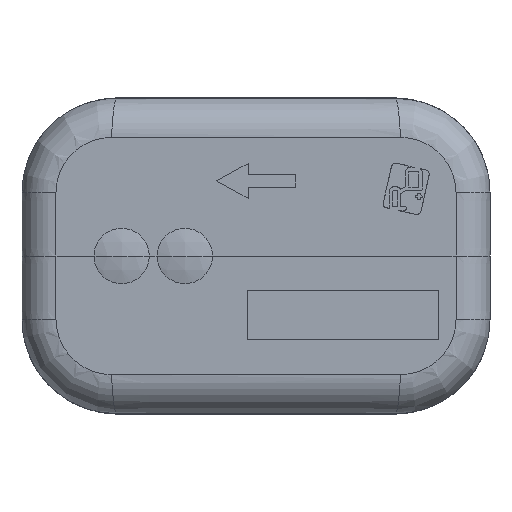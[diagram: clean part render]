
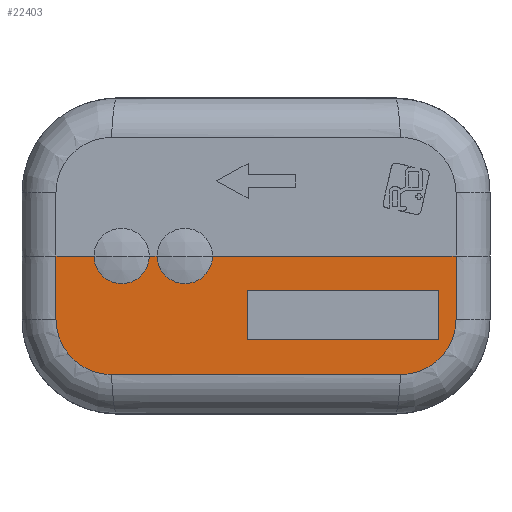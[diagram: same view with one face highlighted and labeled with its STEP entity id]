
A CAD part, front view. The second image highlights one B-rep face of the part: STEP entity #22403.
In plain terms, the highlighted planar face has unit normal (0, -1, 0).
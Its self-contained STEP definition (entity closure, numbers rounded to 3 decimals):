
#20815 = VERTEX_POINT('',#20816);
#20816 = CARTESIAN_POINT('',(-25.3,-25.9,-8.));
#20837 = EDGE_CURVE('',#20838,#20815,#20840,.T.);
#20838 = VERTEX_POINT('',#20839);
#20839 = CARTESIAN_POINT('',(-25.3,-25.9,0.));
#20840 = B_SPLINE_CURVE_WITH_KNOTS('',8,(#20841,#20842,#20843,#20844,
    #20845,#20846,#20847,#20848,#20849),.UNSPECIFIED.,.F.,.F.,(9,9),(6.,
    7.),.PIECEWISE_BEZIER_KNOTS.);
#20841 = CARTESIAN_POINT('',(-25.3,-25.9,8.));
#20842 = CARTESIAN_POINT('',(-25.3,-25.9,6.));
#20843 = CARTESIAN_POINT('',(-25.3,-25.9,4.));
#20844 = CARTESIAN_POINT('',(-25.3,-25.9,2.));
#20845 = CARTESIAN_POINT('',(-25.3,-25.9,0.));
#20846 = CARTESIAN_POINT('',(-25.3,-25.9,-2.));
#20847 = CARTESIAN_POINT('',(-25.3,-25.9,-4.));
#20848 = CARTESIAN_POINT('',(-25.3,-25.9,-6.));
#20849 = CARTESIAN_POINT('',(-25.3,-25.9,-8.));
#22153 = EDGE_CURVE('',#22154,#20838,#22156,.T.);
#22154 = VERTEX_POINT('',#22155);
#22155 = CARTESIAN_POINT('',(-20.5,-25.9,0.));
#22156 = LINE('',#22157,#22158);
#22157 = CARTESIAN_POINT('',(-59.15,-25.9,0.));
#22158 = VECTOR('',#22159,1.);
#22159 = DIRECTION('',(-1.,0.,0.));
#22162 = VERTEX_POINT('',#22163);
#22163 = CARTESIAN_POINT('',(-13.5,-25.9,0.));
#22170 = EDGE_CURVE('',#22171,#22162,#22173,.T.);
#22171 = VERTEX_POINT('',#22172);
#22172 = CARTESIAN_POINT('',(-12.5,-25.9,0.));
#22173 = LINE('',#22174,#22175);
#22174 = CARTESIAN_POINT('',(-59.15,-25.9,0.));
#22175 = VECTOR('',#22176,1.);
#22176 = DIRECTION('',(-1.,0.,0.));
#22179 = VERTEX_POINT('',#22180);
#22180 = CARTESIAN_POINT('',(-5.5,-25.9,0.));
#22187 = EDGE_CURVE('',#22188,#22179,#22190,.T.);
#22188 = VERTEX_POINT('',#22189);
#22189 = CARTESIAN_POINT('',(25.3,-25.9,0.));
#22190 = LINE('',#22191,#22192);
#22191 = CARTESIAN_POINT('',(-59.15,-25.9,0.));
#22192 = VECTOR('',#22193,1.);
#22193 = DIRECTION('',(-1.,0.,0.));
#22403 = ADVANCED_FACE('',(#22404,#22496),#22530,.T.);
#22404 = FACE_BOUND('',#22405,.T.);
#22405 = EDGE_LOOP('',(#22406,#22420,#22434,#22448,#22460,#22461,#22470,
    #22477,#22478,#22487,#22494,#22495));
#22406 = ORIENTED_EDGE('',*,*,#22407,.T.);
#22407 = EDGE_CURVE('',#20815,#22408,#22410,.T.);
#22408 = VERTEX_POINT('',#22409);
#22409 = CARTESIAN_POINT('',(-18.3,-25.9,-15.));
#22410 = B_SPLINE_CURVE_WITH_KNOTS('',8,(#22411,#22412,#22413,#22414,
    #22415,#22416,#22417,#22418,#22419),.UNSPECIFIED.,.F.,.F.,(9,9),(7.,
    8.),.PIECEWISE_BEZIER_KNOTS.);
#22411 = CARTESIAN_POINT('',(-25.3,-25.9,-8.));
#22412 = CARTESIAN_POINT('',(-25.3,-25.9,-9.374));
#22413 = CARTESIAN_POINT('',(-24.992,-25.9,-10.749));
#22414 = CARTESIAN_POINT('',(-24.375,-25.9,-12.043));
#22415 = CARTESIAN_POINT('',(-23.475,-25.9,-13.175));
#22416 = CARTESIAN_POINT('',(-22.343,-25.9,-14.075));
#22417 = CARTESIAN_POINT('',(-21.049,-25.9,-14.692));
#22418 = CARTESIAN_POINT('',(-19.674,-25.9,-15.));
#22419 = CARTESIAN_POINT('',(-18.3,-25.9,-15.));
#22420 = ORIENTED_EDGE('',*,*,#22421,.T.);
#22421 = EDGE_CURVE('',#22408,#22422,#22424,.T.);
#22422 = VERTEX_POINT('',#22423);
#22423 = CARTESIAN_POINT('',(18.3,-25.9,-15.));
#22424 = B_SPLINE_CURVE_WITH_KNOTS('',8,(#22425,#22426,#22427,#22428,
    #22429,#22430,#22431,#22432,#22433),.UNSPECIFIED.,.F.,.F.,(9,9),(0.,
    1.),.PIECEWISE_BEZIER_KNOTS.);
#22425 = CARTESIAN_POINT('',(-18.3,-25.9,-15.));
#22426 = CARTESIAN_POINT('',(-13.725,-25.9,-15.));
#22427 = CARTESIAN_POINT('',(-9.15,-25.9,-15.));
#22428 = CARTESIAN_POINT('',(-4.575,-25.9,-15.));
#22429 = CARTESIAN_POINT('',(0.,-25.9,-15.));
#22430 = CARTESIAN_POINT('',(4.575,-25.9,-15.));
#22431 = CARTESIAN_POINT('',(9.15,-25.9,-15.));
#22432 = CARTESIAN_POINT('',(13.725,-25.9,-15.));
#22433 = CARTESIAN_POINT('',(18.3,-25.9,-15.));
#22434 = ORIENTED_EDGE('',*,*,#22435,.T.);
#22435 = EDGE_CURVE('',#22422,#22436,#22438,.T.);
#22436 = VERTEX_POINT('',#22437);
#22437 = CARTESIAN_POINT('',(25.3,-25.9,-8.));
#22438 = B_SPLINE_CURVE_WITH_KNOTS('',8,(#22439,#22440,#22441,#22442,
    #22443,#22444,#22445,#22446,#22447),.UNSPECIFIED.,.F.,.F.,(9,9),(1.,
    2.),.PIECEWISE_BEZIER_KNOTS.);
#22439 = CARTESIAN_POINT('',(18.3,-25.9,-15.));
#22440 = CARTESIAN_POINT('',(19.674,-25.9,-15.));
#22441 = CARTESIAN_POINT('',(21.049,-25.9,-14.692));
#22442 = CARTESIAN_POINT('',(22.343,-25.9,-14.075));
#22443 = CARTESIAN_POINT('',(23.475,-25.9,-13.175));
#22444 = CARTESIAN_POINT('',(24.375,-25.9,-12.043));
#22445 = CARTESIAN_POINT('',(24.992,-25.9,-10.749));
#22446 = CARTESIAN_POINT('',(25.3,-25.9,-9.374));
#22447 = CARTESIAN_POINT('',(25.3,-25.9,-8.));
#22448 = ORIENTED_EDGE('',*,*,#22449,.T.);
#22449 = EDGE_CURVE('',#22436,#22188,#22450,.T.);
#22450 = B_SPLINE_CURVE_WITH_KNOTS('',8,(#22451,#22452,#22453,#22454,
    #22455,#22456,#22457,#22458,#22459),.UNSPECIFIED.,.F.,.F.,(9,9),(2.,
    3.),.PIECEWISE_BEZIER_KNOTS.);
#22451 = CARTESIAN_POINT('',(25.3,-25.9,-8.));
#22452 = CARTESIAN_POINT('',(25.3,-25.9,-6.));
#22453 = CARTESIAN_POINT('',(25.3,-25.9,-4.));
#22454 = CARTESIAN_POINT('',(25.3,-25.9,-2.));
#22455 = CARTESIAN_POINT('',(25.3,-25.9,0.));
#22456 = CARTESIAN_POINT('',(25.3,-25.9,2.));
#22457 = CARTESIAN_POINT('',(25.3,-25.9,4.));
#22458 = CARTESIAN_POINT('',(25.3,-25.9,6.));
#22459 = CARTESIAN_POINT('',(25.3,-25.9,8.));
#22460 = ORIENTED_EDGE('',*,*,#22187,.T.);
#22461 = ORIENTED_EDGE('',*,*,#22462,.F.);
#22462 = EDGE_CURVE('',#22463,#22179,#22465,.T.);
#22463 = VERTEX_POINT('',#22464);
#22464 = CARTESIAN_POINT('',(-9.,-25.9,-3.5));
#22465 = CIRCLE('',#22466,3.5);
#22466 = AXIS2_PLACEMENT_3D('',#22467,#22468,#22469);
#22467 = CARTESIAN_POINT('',(-9.,-25.9,0.));
#22468 = DIRECTION('',(0.,-1.,0.));
#22469 = DIRECTION('',(0.,0.,-1.));
#22470 = ORIENTED_EDGE('',*,*,#22471,.F.);
#22471 = EDGE_CURVE('',#22171,#22463,#22472,.T.);
#22472 = CIRCLE('',#22473,3.5);
#22473 = AXIS2_PLACEMENT_3D('',#22474,#22475,#22476);
#22474 = CARTESIAN_POINT('',(-9.,-25.9,0.));
#22475 = DIRECTION('',(0.,-1.,0.));
#22476 = DIRECTION('',(0.,0.,-1.));
#22477 = ORIENTED_EDGE('',*,*,#22170,.T.);
#22478 = ORIENTED_EDGE('',*,*,#22479,.F.);
#22479 = EDGE_CURVE('',#22480,#22162,#22482,.T.);
#22480 = VERTEX_POINT('',#22481);
#22481 = CARTESIAN_POINT('',(-17.,-25.9,-3.5));
#22482 = CIRCLE('',#22483,3.5);
#22483 = AXIS2_PLACEMENT_3D('',#22484,#22485,#22486);
#22484 = CARTESIAN_POINT('',(-17.,-25.9,0.));
#22485 = DIRECTION('',(0.,-1.,0.));
#22486 = DIRECTION('',(0.,0.,-1.));
#22487 = ORIENTED_EDGE('',*,*,#22488,.F.);
#22488 = EDGE_CURVE('',#22154,#22480,#22489,.T.);
#22489 = CIRCLE('',#22490,3.5);
#22490 = AXIS2_PLACEMENT_3D('',#22491,#22492,#22493);
#22491 = CARTESIAN_POINT('',(-17.,-25.9,0.));
#22492 = DIRECTION('',(0.,-1.,0.));
#22493 = DIRECTION('',(0.,0.,-1.));
#22494 = ORIENTED_EDGE('',*,*,#22153,.T.);
#22495 = ORIENTED_EDGE('',*,*,#20837,.T.);
#22496 = FACE_BOUND('',#22497,.T.);
#22497 = EDGE_LOOP('',(#22498,#22508,#22516,#22524));
#22498 = ORIENTED_EDGE('',*,*,#22499,.T.);
#22499 = EDGE_CURVE('',#22500,#22502,#22504,.T.);
#22500 = VERTEX_POINT('',#22501);
#22501 = CARTESIAN_POINT('',(23.1,-25.9,-10.6));
#22502 = VERTEX_POINT('',#22503);
#22503 = CARTESIAN_POINT('',(-1.1,-25.9,-10.6));
#22504 = LINE('',#22505,#22506);
#22505 = CARTESIAN_POINT('',(-9.7,-25.9,-10.6));
#22506 = VECTOR('',#22507,1.);
#22507 = DIRECTION('',(-1.,0.,0.));
#22508 = ORIENTED_EDGE('',*,*,#22509,.T.);
#22509 = EDGE_CURVE('',#22502,#22510,#22512,.T.);
#22510 = VERTEX_POINT('',#22511);
#22511 = CARTESIAN_POINT('',(-1.1,-25.9,-4.4));
#22512 = LINE('',#22513,#22514);
#22513 = CARTESIAN_POINT('',(-1.1,-25.9,-12.8));
#22514 = VECTOR('',#22515,1.);
#22515 = DIRECTION('',(0.,0.,1.));
#22516 = ORIENTED_EDGE('',*,*,#22517,.F.);
#22517 = EDGE_CURVE('',#22518,#22510,#22520,.T.);
#22518 = VERTEX_POINT('',#22519);
#22519 = CARTESIAN_POINT('',(23.1,-25.9,-4.4));
#22520 = LINE('',#22521,#22522);
#22521 = CARTESIAN_POINT('',(-9.7,-25.9,-4.4));
#22522 = VECTOR('',#22523,1.);
#22523 = DIRECTION('',(-1.,0.,0.));
#22524 = ORIENTED_EDGE('',*,*,#22525,.F.);
#22525 = EDGE_CURVE('',#22500,#22518,#22526,.T.);
#22526 = LINE('',#22527,#22528);
#22527 = CARTESIAN_POINT('',(23.1,-25.9,-12.8));
#22528 = VECTOR('',#22529,1.);
#22529 = DIRECTION('',(0.,0.,1.));
#22530 = PLANE('',#22531);
#22531 = AXIS2_PLACEMENT_3D('',#22532,#22533,#22534);
#22532 = CARTESIAN_POINT('',(-18.3,-25.9,-15.));
#22533 = DIRECTION('',(0.,-1.,0.));
#22534 = DIRECTION('',(0.845,0.,0.535));
